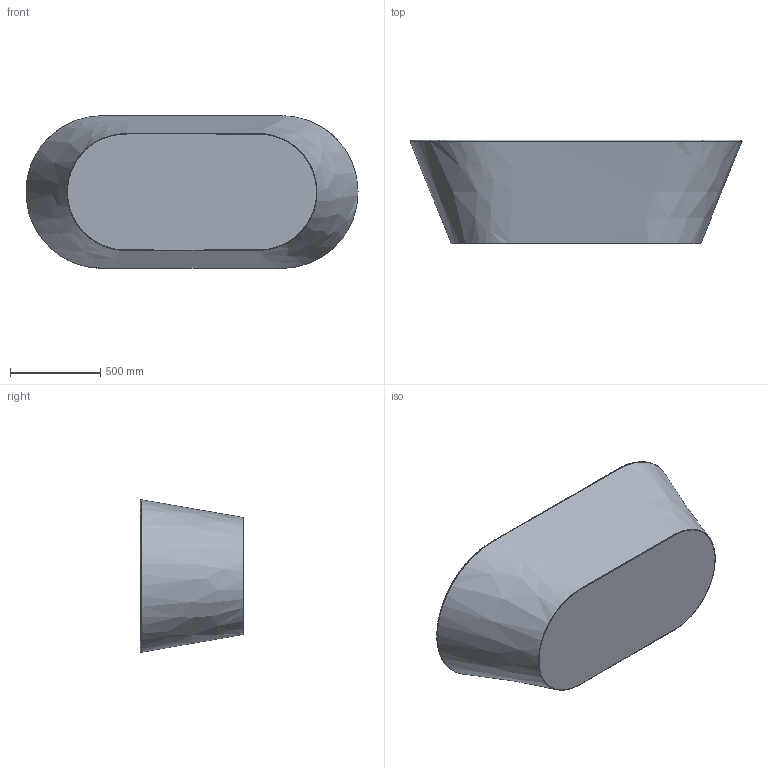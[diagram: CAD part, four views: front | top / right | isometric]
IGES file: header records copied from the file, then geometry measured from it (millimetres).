
Start section: Write IGES format                                    datakit 2008 (c)
Global section: file name: Unknown; native system: DATAKIT Converter; preprocessor: Unknown; author: Unknown; organization: Unknown; date: 950613.180003; units: millimetre
Bounding box: 1844.16 x 575 x 847.31 mm (x, y, z)
Surface area: 5707936 mm2 (no closed solid volume)
Topology: 0 solids, 0 shells, 60 faces, 414 edges, 411 vertices
Faces by surface type: revolution 24, bspline 23, offset 13
